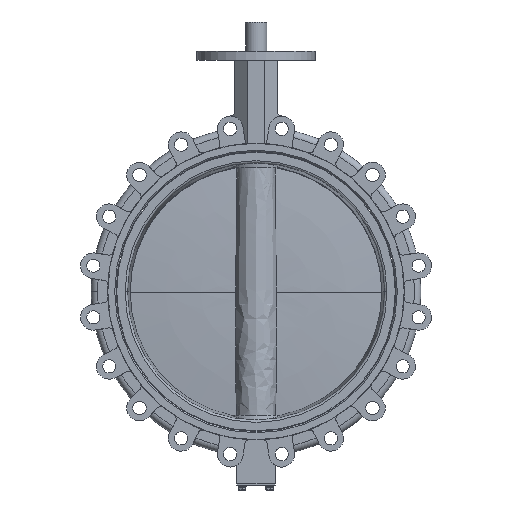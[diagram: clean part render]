
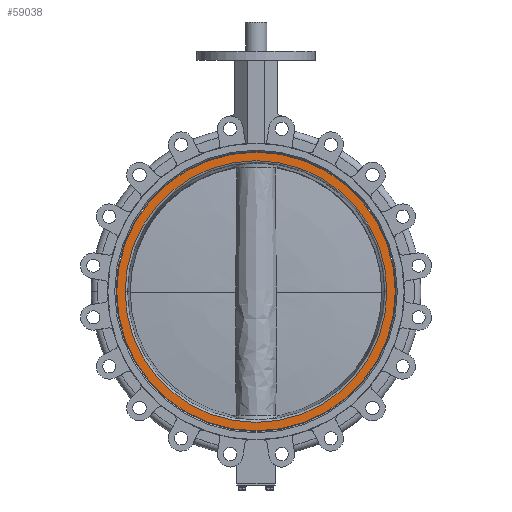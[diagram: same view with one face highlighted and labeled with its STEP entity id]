
A CAD part, left-side view. The second image highlights one B-rep face of the part: STEP entity #59038.
In plain terms, the highlighted planar face has unit normal (-1, 0, 0).
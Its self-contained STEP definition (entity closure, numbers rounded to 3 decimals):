
#56910 = TOROIDAL_SURFACE('',#56911,305.838,5.);
#56911 = AXIS2_PLACEMENT_3D('',#56912,#56913,#56914);
#56912 = CARTESIAN_POINT('',(-74.25,-86.079,-82.979));
#56913 = DIRECTION('',(-1.,0.,0.));
#56914 = DIRECTION('',(0.,-1.,0.));
#56970 = EDGE_CURVE('',#56971,#56973,#56975,.T.);
#56971 = VERTEX_POINT('',#56972);
#56972 = CARTESIAN_POINT('',(-79.25,-391.917,-82.979));
#56973 = VERTEX_POINT('',#56974);
#56974 = CARTESIAN_POINT('',(-79.25,219.76,-82.979));
#56975 = SURFACE_CURVE('',#56976,(#56981,#56993),.PCURVE_S1.);
#56976 = CIRCLE('',#56977,305.838);
#56977 = AXIS2_PLACEMENT_3D('',#56978,#56979,#56980);
#56978 = CARTESIAN_POINT('',(-79.25,-86.079,-82.979));
#56979 = DIRECTION('',(-1.,0.,0.));
#56980 = DIRECTION('',(0.,-1.,0.));
#56981 = PCURVE('',#56982,#56987);
#56982 = TOROIDAL_SURFACE('',#56983,305.838,5.);
#56983 = AXIS2_PLACEMENT_3D('',#56984,#56985,#56986);
#56984 = CARTESIAN_POINT('',(-74.25,-86.079,-82.979));
#56985 = DIRECTION('',(-1.,0.,0.));
#56986 = DIRECTION('',(0.,-1.,0.));
#56987 = DEFINITIONAL_REPRESENTATION('',(#56988),#56992);
#56988 = LINE('',#56989,#56990);
#56989 = CARTESIAN_POINT('',(0.,1.571));
#56990 = VECTOR('',#56991,1.);
#56991 = DIRECTION('',(1.,0.));
#56992 = ( GEOMETRIC_REPRESENTATION_CONTEXT(2) 
PARAMETRIC_REPRESENTATION_CONTEXT() REPRESENTATION_CONTEXT('2D SPACE',''
  ) );
#56993 = PCURVE('',#56994,#56999);
#56994 = PLANE('',#56995);
#56995 = AXIS2_PLACEMENT_3D('',#56996,#56997,#56998);
#56996 = CARTESIAN_POINT('',(-79.25,-86.079,242.721));
#56997 = DIRECTION('',(1.,0.,0.));
#56998 = DIRECTION('',(0.,1.,0.));
#56999 = DEFINITIONAL_REPRESENTATION('',(#57000),#57008);
#57000 = ( BOUNDED_CURVE() B_SPLINE_CURVE(2,(#57001,#57002,#57003,#57004
    ,#57005,#57006,#57007),.UNSPECIFIED.,.T.,.F.) 
B_SPLINE_CURVE_WITH_KNOTS((1,2,2,2,2,1),(-2.094,0.,
    2.094,4.189,6.283,8.378),
.UNSPECIFIED.) CURVE() GEOMETRIC_REPRESENTATION_ITEM() 
RATIONAL_B_SPLINE_CURVE((1.,0.5,1.,0.5,1.,0.5,1.)) REPRESENTATION_ITEM(
  '') );
#57001 = CARTESIAN_POINT('',(-305.838,-325.7));
#57002 = CARTESIAN_POINT('',(-305.838,204.027));
#57003 = CARTESIAN_POINT('',(152.919,-60.836));
#57004 = CARTESIAN_POINT('',(611.676,-325.7));
#57005 = CARTESIAN_POINT('',(152.919,-590.564));
#57006 = CARTESIAN_POINT('',(-305.838,-855.427));
#57007 = CARTESIAN_POINT('',(-305.838,-325.7));
#57008 = ( GEOMETRIC_REPRESENTATION_CONTEXT(2) 
PARAMETRIC_REPRESENTATION_CONTEXT() REPRESENTATION_CONTEXT('2D SPACE',''
  ) );
#57091 = CYLINDRICAL_SURFACE('',#57092,325.7);
#57092 = AXIS2_PLACEMENT_3D('',#57093,#57094,#57095);
#57093 = CARTESIAN_POINT('',(-95.611,-86.079,
    -82.979));
#57094 = DIRECTION('',(-1.,0.,0.));
#57095 = DIRECTION('',(0.,-1.,0.));
#57120 = VERTEX_POINT('',#57121);
#57121 = CARTESIAN_POINT('',(-79.25,239.621,-82.979));
#57135 = CYLINDRICAL_SURFACE('',#57136,325.7);
#57136 = AXIS2_PLACEMENT_3D('',#57137,#57138,#57139);
#57137 = CARTESIAN_POINT('',(-95.611,-86.079,
    -82.979));
#57138 = DIRECTION('',(-1.,0.,0.));
#57139 = DIRECTION('',(0.,-1.,0.));
#57147 = EDGE_CURVE('',#57148,#57120,#57150,.T.);
#57148 = VERTEX_POINT('',#57149);
#57149 = CARTESIAN_POINT('',(-79.25,-411.779,-82.979));
#57150 = SURFACE_CURVE('',#57151,(#57156,#57163),.PCURVE_S1.);
#57151 = CIRCLE('',#57152,325.7);
#57152 = AXIS2_PLACEMENT_3D('',#57153,#57154,#57155);
#57153 = CARTESIAN_POINT('',(-79.25,-86.079,-82.979));
#57154 = DIRECTION('',(-1.,0.,0.));
#57155 = DIRECTION('',(0.,-1.,0.));
#57156 = PCURVE('',#57091,#57157);
#57157 = DEFINITIONAL_REPRESENTATION('',(#57158),#57162);
#57158 = LINE('',#57159,#57160);
#57159 = CARTESIAN_POINT('',(0.,-16.361));
#57160 = VECTOR('',#57161,1.);
#57161 = DIRECTION('',(1.,0.));
#57162 = ( GEOMETRIC_REPRESENTATION_CONTEXT(2) 
PARAMETRIC_REPRESENTATION_CONTEXT() REPRESENTATION_CONTEXT('2D SPACE',''
  ) );
#57163 = PCURVE('',#56994,#57164);
#57164 = DEFINITIONAL_REPRESENTATION('',(#57165),#57173);
#57165 = ( BOUNDED_CURVE() B_SPLINE_CURVE(2,(#57166,#57167,#57168,#57169
    ,#57170,#57171,#57172),.UNSPECIFIED.,.T.,.F.) 
B_SPLINE_CURVE_WITH_KNOTS((1,2,2,2,2,1),(-2.094,0.,
    2.094,4.189,6.283,8.378),
.UNSPECIFIED.) CURVE() GEOMETRIC_REPRESENTATION_ITEM() 
RATIONAL_B_SPLINE_CURVE((1.,0.5,1.,0.5,1.,0.5,1.)) REPRESENTATION_ITEM(
  '') );
#57166 = CARTESIAN_POINT('',(-325.7,-325.7));
#57167 = CARTESIAN_POINT('',(-325.7,238.429));
#57168 = CARTESIAN_POINT('',(162.85,-43.636));
#57169 = CARTESIAN_POINT('',(651.4,-325.7));
#57170 = CARTESIAN_POINT('',(162.85,-607.764));
#57171 = CARTESIAN_POINT('',(-325.7,-889.829));
#57172 = CARTESIAN_POINT('',(-325.7,-325.7));
#57173 = ( GEOMETRIC_REPRESENTATION_CONTEXT(2) 
PARAMETRIC_REPRESENTATION_CONTEXT() REPRESENTATION_CONTEXT('2D SPACE',''
  ) );
#59013 = EDGE_CURVE('',#57120,#57148,#59014,.T.);
#59014 = SURFACE_CURVE('',#59015,(#59020,#59027),.PCURVE_S1.);
#59015 = CIRCLE('',#59016,325.7);
#59016 = AXIS2_PLACEMENT_3D('',#59017,#59018,#59019);
#59017 = CARTESIAN_POINT('',(-79.25,-86.079,-82.979));
#59018 = DIRECTION('',(-1.,0.,0.));
#59019 = DIRECTION('',(0.,-1.,0.));
#59020 = PCURVE('',#57135,#59021);
#59021 = DEFINITIONAL_REPRESENTATION('',(#59022),#59026);
#59022 = LINE('',#59023,#59024);
#59023 = CARTESIAN_POINT('',(0.,-16.361));
#59024 = VECTOR('',#59025,1.);
#59025 = DIRECTION('',(1.,0.));
#59026 = ( GEOMETRIC_REPRESENTATION_CONTEXT(2) 
PARAMETRIC_REPRESENTATION_CONTEXT() REPRESENTATION_CONTEXT('2D SPACE',''
  ) );
#59027 = PCURVE('',#56994,#59028);
#59028 = DEFINITIONAL_REPRESENTATION('',(#59029),#59037);
#59029 = ( BOUNDED_CURVE() B_SPLINE_CURVE(2,(#59030,#59031,#59032,#59033
    ,#59034,#59035,#59036),.UNSPECIFIED.,.T.,.F.) 
B_SPLINE_CURVE_WITH_KNOTS((1,2,2,2,2,1),(-2.094,0.,
    2.094,4.189,6.283,8.378),
.UNSPECIFIED.) CURVE() GEOMETRIC_REPRESENTATION_ITEM() 
RATIONAL_B_SPLINE_CURVE((1.,0.5,1.,0.5,1.,0.5,1.)) REPRESENTATION_ITEM(
  '') );
#59030 = CARTESIAN_POINT('',(-325.7,-325.7));
#59031 = CARTESIAN_POINT('',(-325.7,238.429));
#59032 = CARTESIAN_POINT('',(162.85,-43.636));
#59033 = CARTESIAN_POINT('',(651.4,-325.7));
#59034 = CARTESIAN_POINT('',(162.85,-607.764));
#59035 = CARTESIAN_POINT('',(-325.7,-889.829));
#59036 = CARTESIAN_POINT('',(-325.7,-325.7));
#59037 = ( GEOMETRIC_REPRESENTATION_CONTEXT(2) 
PARAMETRIC_REPRESENTATION_CONTEXT() REPRESENTATION_CONTEXT('2D SPACE',''
  ) );
#59038 = ADVANCED_FACE('',(#59039,#59068),#56994,.F.);
#59039 = FACE_BOUND('',#59040,.T.);
#59040 = EDGE_LOOP('',(#59041,#59042));
#59041 = ORIENTED_EDGE('',*,*,#56970,.F.);
#59042 = ORIENTED_EDGE('',*,*,#59043,.F.);
#59043 = EDGE_CURVE('',#56973,#56971,#59044,.T.);
#59044 = SURFACE_CURVE('',#59045,(#59050,#59061),.PCURVE_S1.);
#59045 = CIRCLE('',#59046,305.838);
#59046 = AXIS2_PLACEMENT_3D('',#59047,#59048,#59049);
#59047 = CARTESIAN_POINT('',(-79.25,-86.079,-82.979));
#59048 = DIRECTION('',(-1.,0.,0.));
#59049 = DIRECTION('',(0.,-1.,0.));
#59050 = PCURVE('',#56994,#59051);
#59051 = DEFINITIONAL_REPRESENTATION('',(#59052),#59060);
#59052 = ( BOUNDED_CURVE() B_SPLINE_CURVE(2,(#59053,#59054,#59055,#59056
    ,#59057,#59058,#59059),.UNSPECIFIED.,.T.,.F.) 
B_SPLINE_CURVE_WITH_KNOTS((1,2,2,2,2,1),(-2.094,0.,
    2.094,4.189,6.283,8.378),
.UNSPECIFIED.) CURVE() GEOMETRIC_REPRESENTATION_ITEM() 
RATIONAL_B_SPLINE_CURVE((1.,0.5,1.,0.5,1.,0.5,1.)) REPRESENTATION_ITEM(
  '') );
#59053 = CARTESIAN_POINT('',(-305.838,-325.7));
#59054 = CARTESIAN_POINT('',(-305.838,204.027));
#59055 = CARTESIAN_POINT('',(152.919,-60.836));
#59056 = CARTESIAN_POINT('',(611.676,-325.7));
#59057 = CARTESIAN_POINT('',(152.919,-590.564));
#59058 = CARTESIAN_POINT('',(-305.838,-855.427));
#59059 = CARTESIAN_POINT('',(-305.838,-325.7));
#59060 = ( GEOMETRIC_REPRESENTATION_CONTEXT(2) 
PARAMETRIC_REPRESENTATION_CONTEXT() REPRESENTATION_CONTEXT('2D SPACE',''
  ) );
#59061 = PCURVE('',#56910,#59062);
#59062 = DEFINITIONAL_REPRESENTATION('',(#59063),#59067);
#59063 = LINE('',#59064,#59065);
#59064 = CARTESIAN_POINT('',(0.,1.571));
#59065 = VECTOR('',#59066,1.);
#59066 = DIRECTION('',(1.,0.));
#59067 = ( GEOMETRIC_REPRESENTATION_CONTEXT(2) 
PARAMETRIC_REPRESENTATION_CONTEXT() REPRESENTATION_CONTEXT('2D SPACE',''
  ) );
#59068 = FACE_BOUND('',#59069,.T.);
#59069 = EDGE_LOOP('',(#59070,#59071));
#59070 = ORIENTED_EDGE('',*,*,#57147,.T.);
#59071 = ORIENTED_EDGE('',*,*,#59013,.T.);
